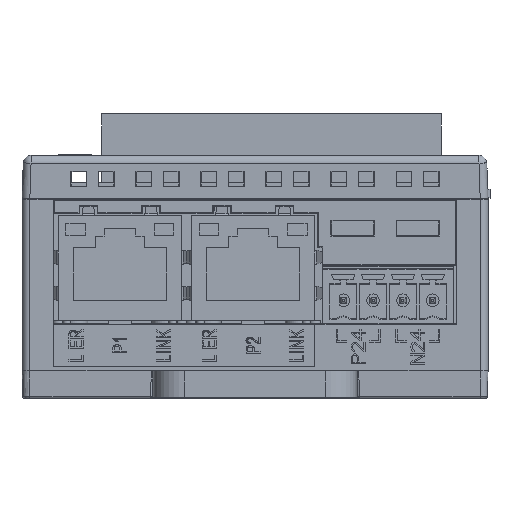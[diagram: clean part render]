
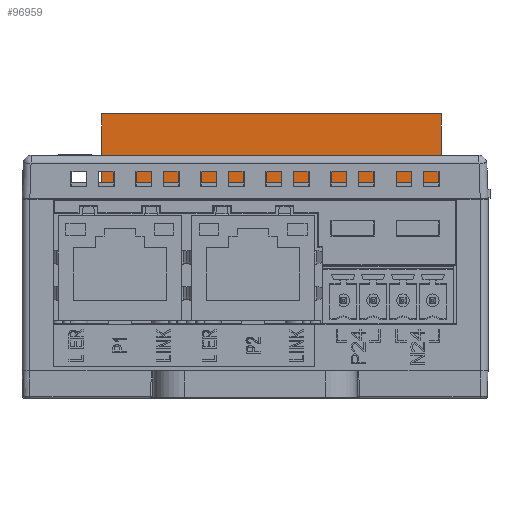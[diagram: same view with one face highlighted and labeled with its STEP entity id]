
A CAD part, front view. The second image highlights one B-rep face of the part: STEP entity #96959.
In plain terms, the highlighted planar face has unit normal (0, -1, 0).
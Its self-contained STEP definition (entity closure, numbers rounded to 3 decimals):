
#16786=DIRECTION('',(1.,0.,0.));
#16787=VECTOR('',#16786,43.3);
#16788=CARTESIAN_POINT('',(-19.55,-19.15,27.5));
#16789=LINE('',#16788,#16787);
#19222=DIRECTION('',(0.,0.,-1.));
#19223=VECTOR('',#19222,8.8);
#19224=CARTESIAN_POINT('',(23.75,-19.15,36.3));
#19225=LINE('',#19224,#19223);
#19230=DIRECTION('',(0.,0.,-1.));
#19231=VECTOR('',#19230,8.8);
#19232=CARTESIAN_POINT('',(-19.55,-19.15,36.3));
#19233=LINE('',#19232,#19231);
#19234=DIRECTION('',(-1.,0.,0.));
#19235=VECTOR('',#19234,43.3);
#19236=CARTESIAN_POINT('',(23.75,-19.15,36.3));
#19237=LINE('',#19236,#19235);
#46657=CARTESIAN_POINT('',(-19.55,-19.15,36.3));
#46659=VERTEX_POINT('',#46657);
#46663=CARTESIAN_POINT('',(23.75,-19.15,36.3));
#46664=VERTEX_POINT('',#46663);
#58547=CARTESIAN_POINT('',(-19.55,-19.15,27.5));
#58549=VERTEX_POINT('',#58547);
#58550=CARTESIAN_POINT('',(23.75,-19.15,27.5));
#58551=VERTEX_POINT('',#58550);
#96947=CARTESIAN_POINT('',(2.1,-19.15,31.7));
#96948=DIRECTION('',(0.,1.,0.));
#96949=DIRECTION('',(1.,0.,0.));
#96950=AXIS2_PLACEMENT_3D('',#96947,#96948,#96949);
#96951=PLANE('',#96950);
#96952=ORIENTED_EDGE('',*,*,#93104,.F.);
#96953=ORIENTED_EDGE('',*,*,#96893,.F.);
#96955=ORIENTED_EDGE('',*,*,#96954,.F.);
#96956=ORIENTED_EDGE('',*,*,#96932,.T.);
#96957=EDGE_LOOP('',(#96952,#96953,#96955,#96956));
#96958=FACE_OUTER_BOUND('',#96957,.F.);
#96959=ADVANCED_FACE('',(#96958),#96951,.F.);
#93104=EDGE_CURVE('',#58549,#58551,#16789,.T.);
#96893=EDGE_CURVE('',#46659,#58549,#19233,.T.);
#96932=EDGE_CURVE('',#46664,#58551,#19225,.T.);
#96954=EDGE_CURVE('',#46664,#46659,#19237,.T.);
